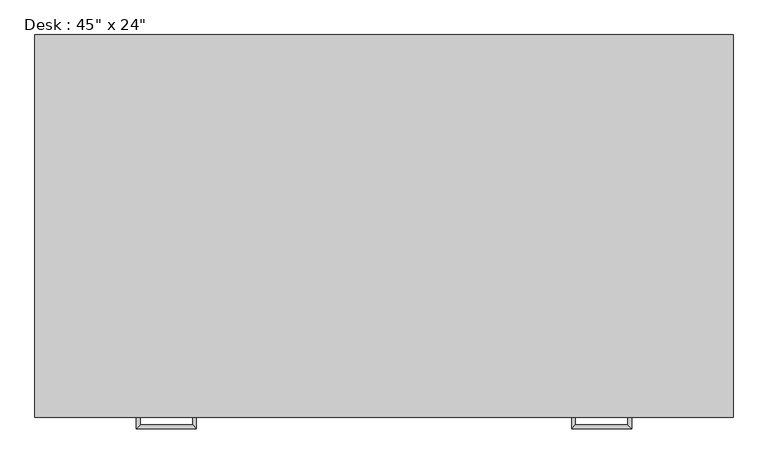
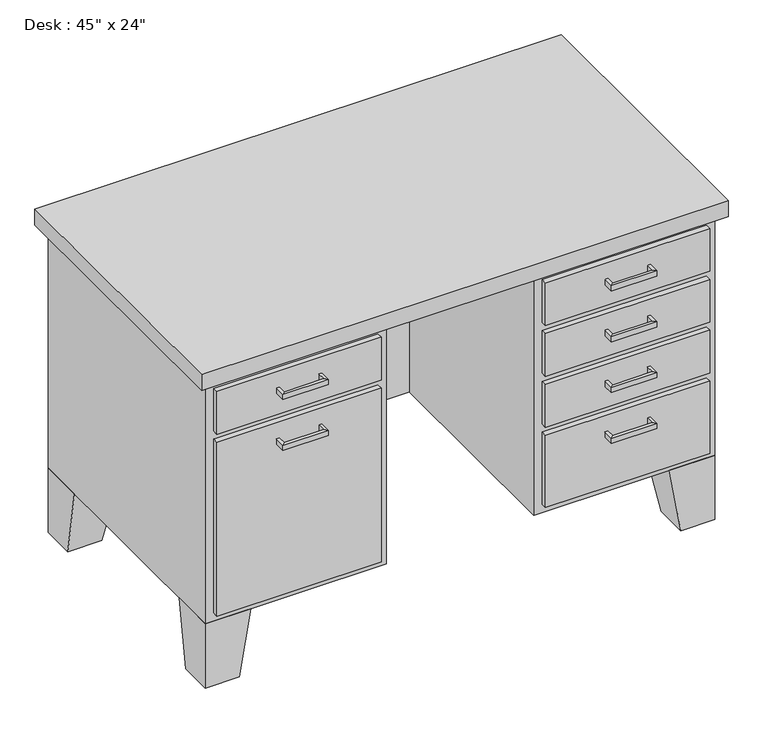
"""IFC4 building model written with IfcOpenShell, lengths in millimetres: furniture geometry."""

from ifc_helpers import new_model, si_unit, frame, origin, place, context, project, spatial, polyline, outline, extrude, faceted_brep, source, transform, mapped, element, save


def furniture_3d133266(model_context):
    return source(origin(), model_context, "Body", "SolidModel", [
        extrude(outline(polyline([(209.55, 76.2), (577.85, 76.2), (577.85, 63.5), (209.55, 63.5), (209.55, 76.2)])), frame((0.0, 0.0, 603.25), z_axis=(0.0, 0.0, 1.0), x_axis=(1.0, 0.0, 0.0)), (0.0, 0.0, 1.0), 101.6),
        extrude(outline(polyline([(209.55, 76.2), (577.85, 76.2), (577.85, 63.5), (209.55, 63.5), (209.55, 76.2)])), frame((0.0, 0.0, 171.45), z_axis=(0.0, 0.0, 1.0), x_axis=(1.0, 0.0, 0.0)), (0.0, 0.0, 1.0), 412.75),
        extrude(outline(polyline([(946.15, 76.2), (1314.45, 76.2), (1314.45, 63.5), (946.15, 63.5), (946.15, 76.2)])), frame((0.0, 0.0, 603.25), z_axis=(0.0, 0.0, 1.0), x_axis=(1.0, 0.0, 0.0)), (0.0, 0.0, 1.0), 101.6),
        extrude(outline(polyline([(946.15, 76.2), (1314.45, 76.2), (1314.45, 63.5), (946.15, 63.5), (946.15, 76.2)])), frame((0.0, 0.0, 171.45), z_axis=(0.0, 0.0, 1.0), x_axis=(1.0, 0.0, 0.0)), (0.0, 0.0, 1.0), 171.45),
        extrude(outline(polyline([(946.15, 76.2), (1314.45, 76.2), (1314.45, 63.5), (946.15, 63.5), (946.15, 76.2)])), frame((0.0, 0.0, 482.6), z_axis=(0.0, 0.0, 1.0), x_axis=(1.0, 0.0, 0.0)), (0.0, 0.0, 1.0), 101.6),
        extrude(outline(polyline([(946.15, 76.2), (1314.45, 76.2), (1314.45, 63.5), (946.15, 63.5), (946.15, 76.2)])), frame((0.0, 0.0, 361.95), z_axis=(0.0, 0.0, 1.0), x_axis=(1.0, 0.0, 0.0)), (0.0, 0.0, 1.0), 101.6),
        faceted_brep([(292.1, 76.2, 152.4), (292.1, 177.8, 152.4), (190.5, 177.8, 152.4), (190.5, 76.2, 152.4), (266.7, 76.2, 0.0), (190.5, 76.2, 0.0), (190.5, 152.4, 0.0), (266.7, 152.4, 0.0)], [[[0, 1, 2, 3]], [[4, 5, 6, 7]], [[4, 7, 1, 0]], [[7, 6, 2, 1]], [[6, 5, 3, 2]], [[5, 4, 0, 3]]]),
        faceted_brep([(292.1, 685.8, 152.4), (190.5, 685.8, 152.4), (190.5, 584.2, 152.4), (292.1, 584.2, 152.4), (266.7, 685.8, 0.0), (266.7, 609.6, 0.0), (190.5, 609.6, 0.0), (190.5, 685.8, 0.0)], [[[0, 1, 2, 3]], [[4, 5, 6, 7]], [[4, 7, 1, 0]], [[7, 6, 2, 1]], [[6, 5, 3, 2]], [[5, 4, 0, 3]]]),
        faceted_brep([(1231.9, 685.8, 152.4), (1231.9, 584.2, 152.4), (1333.5, 584.2, 152.4), (1333.5, 685.8, 152.4), (1257.3, 685.8, 0.0), (1333.5, 685.8, 0.0), (1333.5, 609.6, 0.0), (1257.3, 609.6, 0.0)], [[[0, 1, 2, 3]], [[4, 5, 6, 7]], [[4, 7, 1, 0]], [[7, 6, 2, 1]], [[6, 5, 3, 2]], [[5, 4, 0, 3]]]),
        faceted_brep([(1231.9, 76.2, 152.4), (1333.5, 76.2, 152.4), (1333.5, 177.8, 152.4), (1231.9, 177.8, 152.4), (1257.3, 76.2, 0.0), (1257.3, 152.4, 0.0), (1333.5, 152.4, 0.0), (1333.5, 76.2, 0.0)], [[[0, 1, 2, 3]], [[4, 5, 6, 7]], [[4, 7, 1, 0]], [[7, 6, 2, 1]], [[6, 5, 3, 2]], [[5, 4, 0, 3]]]),
        extrude(outline(polyline([(171.45, 57.15), (171.45, 704.85), (1352.55, 704.85), (1352.55, 57.15), (171.45, 57.15)])), frame((0.0, 0.0, 723.9), z_axis=(0.0, 0.0, 1.0), x_axis=(1.0, 0.0, 0.0)), (0.0, 0.0, 1.0), 38.1),
        extrude(outline(polyline([(927.1, 76.2), (927.1, 558.8), (596.9, 558.8), (596.9, 76.2), (190.5, 76.2), (190.5, 685.8), (1333.5, 685.8), (1333.5, 76.2), (927.1, 76.2)])), frame((0.0, 0.0, 152.4), z_axis=(0.0, 0.0, 1.0), x_axis=(1.0, 0.0, 0.0)), (0.0, 0.0, 1.0), 571.5),
        faceted_brep([(349.25, 63.5, 546.1), (349.25, 63.5, 533.4), (342.9, 63.5, 533.4), (342.9, 63.5, 546.1), (349.25, 44.45, 546.1), (349.25, 44.45, 533.4), (342.9, 38.1, 533.4), (342.9, 38.1, 546.1), (438.15, 44.45, 546.1), (438.15, 44.45, 533.4), (444.5, 38.1, 533.4), (444.5, 38.1, 546.1), (438.15, 63.5, 546.1), (444.5, 63.5, 546.1), (444.5, 63.5, 533.4), (438.15, 63.5, 533.4)], [[[0, 1, 2, 3]], [[1, 0, 4, 5]], [[2, 1, 5, 6]], [[3, 2, 6, 7]], [[0, 3, 7, 4]], [[5, 4, 8, 9]], [[6, 5, 9, 10]], [[7, 6, 10, 11]], [[4, 7, 11, 8]], [[12, 13, 14, 15]], [[9, 8, 12, 15]], [[10, 9, 15, 14]], [[11, 10, 14, 13]], [[8, 11, 13, 12]]]),
        faceted_brep([(349.25, 63.5, 666.75), (349.25, 63.5, 654.05), (342.9, 63.5, 654.05), (342.9, 63.5, 666.75), (349.25, 44.45, 666.75), (349.25, 44.45, 654.05), (342.9, 38.1, 654.05), (342.9, 38.1, 666.75), (438.15, 44.45, 666.75), (438.15, 44.45, 654.05), (444.5, 38.1, 654.05), (444.5, 38.1, 666.75), (438.15, 63.5, 666.75), (444.5, 63.5, 666.75), (444.5, 63.5, 654.05), (438.15, 63.5, 654.05)], [[[0, 1, 2, 3]], [[1, 0, 4, 5]], [[2, 1, 5, 6]], [[3, 2, 6, 7]], [[0, 3, 7, 4]], [[5, 4, 8, 9]], [[6, 5, 9, 10]], [[7, 6, 10, 11]], [[4, 7, 11, 8]], [[12, 13, 14, 15]], [[9, 8, 12, 15]], [[10, 9, 15, 14]], [[11, 10, 14, 13]], [[8, 11, 13, 12]]]),
        faceted_brep([(1174.75, 63.5, 304.8), (1181.1, 63.5, 304.8), (1181.1, 63.5, 292.1), (1174.75, 63.5, 292.1), (1174.75, 44.45, 304.8), (1181.1, 38.1, 304.8), (1181.1, 38.1, 292.1), (1174.75, 44.45, 292.1), (1085.85, 44.45, 304.8), (1079.5, 38.1, 304.8), (1079.5, 38.1, 292.1), (1085.85, 44.45, 292.1), (1085.85, 63.5, 304.8), (1085.85, 63.5, 292.1), (1079.5, 63.5, 292.1), (1079.5, 63.5, 304.8)], [[[0, 1, 2, 3]], [[1, 0, 4, 5]], [[2, 1, 5, 6]], [[3, 2, 6, 7]], [[0, 3, 7, 4]], [[5, 4, 8, 9]], [[6, 5, 9, 10]], [[7, 6, 10, 11]], [[4, 7, 11, 8]], [[12, 13, 14, 15]], [[9, 8, 12, 15]], [[10, 9, 15, 14]], [[11, 10, 14, 13]], [[8, 11, 13, 12]]]),
        faceted_brep([(1174.75, 63.5, 425.45), (1181.1, 63.5, 425.45), (1181.1, 63.5, 412.75), (1174.75, 63.5, 412.75), (1174.75, 44.45, 425.45), (1181.1, 38.1, 425.45), (1181.1, 38.1, 412.75), (1174.75, 44.45, 412.75), (1085.85, 44.45, 425.45), (1079.5, 38.1, 425.45), (1079.5, 38.1, 412.75), (1085.85, 44.45, 412.75), (1085.85, 63.5, 425.45), (1085.85, 63.5, 412.75), (1079.5, 63.5, 412.75), (1079.5, 63.5, 425.45)], [[[0, 1, 2, 3]], [[1, 0, 4, 5]], [[2, 1, 5, 6]], [[3, 2, 6, 7]], [[0, 3, 7, 4]], [[5, 4, 8, 9]], [[6, 5, 9, 10]], [[7, 6, 10, 11]], [[4, 7, 11, 8]], [[12, 13, 14, 15]], [[9, 8, 12, 15]], [[10, 9, 15, 14]], [[11, 10, 14, 13]], [[8, 11, 13, 12]]]),
        faceted_brep([(1174.75, 63.5, 546.1), (1181.1, 63.5, 546.1), (1181.1, 63.5, 533.4), (1174.75, 63.5, 533.4), (1174.75, 44.45, 546.1), (1181.1, 38.1, 546.1), (1181.1, 38.1, 533.4), (1174.75, 44.45, 533.4), (1085.85, 44.45, 546.1), (1079.5, 38.1, 546.1), (1079.5, 38.1, 533.4), (1085.85, 44.45, 533.4), (1085.85, 63.5, 546.1), (1085.85, 63.5, 533.4), (1079.5, 63.5, 533.4), (1079.5, 63.5, 546.1)], [[[0, 1, 2, 3]], [[1, 0, 4, 5]], [[2, 1, 5, 6]], [[3, 2, 6, 7]], [[0, 3, 7, 4]], [[5, 4, 8, 9]], [[6, 5, 9, 10]], [[7, 6, 10, 11]], [[4, 7, 11, 8]], [[12, 13, 14, 15]], [[9, 8, 12, 15]], [[10, 9, 15, 14]], [[11, 10, 14, 13]], [[8, 11, 13, 12]]]),
        faceted_brep([(1174.75, 63.5, 666.75), (1181.1, 63.5, 666.75), (1181.1, 63.5, 654.05), (1174.75, 63.5, 654.05), (1174.75, 44.45, 666.75), (1181.1, 38.1, 666.75), (1181.1, 38.1, 654.05), (1174.75, 44.45, 654.05), (1085.85, 44.45, 666.75), (1079.5, 38.1, 666.75), (1079.5, 38.1, 654.05), (1085.85, 44.45, 654.05), (1085.85, 63.5, 666.75), (1085.85, 63.5, 654.05), (1079.5, 63.5, 654.05), (1079.5, 63.5, 666.75)], [[[0, 1, 2, 3]], [[1, 0, 4, 5]], [[2, 1, 5, 6]], [[3, 2, 6, 7]], [[0, 3, 7, 4]], [[5, 4, 8, 9]], [[6, 5, 9, 10]], [[7, 6, 10, 11]], [[4, 7, 11, 8]], [[12, 13, 14, 15]], [[9, 8, 12, 15]], [[10, 9, 15, 14]], [[11, 10, 14, 13]], [[8, 11, 13, 12]]]),
    ])


if __name__ == "__main__":
    model = new_model("IFC4")
    model_context = context("Model", 3, world=origin())
    ifc_project = project(units=[si_unit("LENGTHUNIT", "METRE", prefix="MILLI")], contexts=[model_context])
    site = spatial("IfcSite", under=ifc_project)
    building = spatial("IfcBuilding", under=site)
    placement = place(None, origin())
    furniture_shape = furniture_3d133266(model_context)
    element("IfcFurniture", 1, ObjectType="Desk : 45\" x 24\"", at=placement, inside=building, context=model_context, shape_type="MappedRepresentation", body=[
        mapped(furniture_shape, transform((0.0, 0.0, 0.0), x_axis=(1.0, 0.0, 0.0), y_axis=(0.0, 1.0, 0.0), z_axis=(0.0, 0.0, 1.0))),
    ])
    save(model, "model.ifc")
